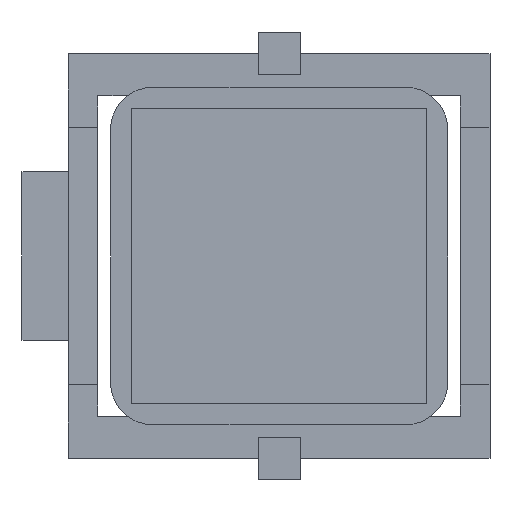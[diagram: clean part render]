
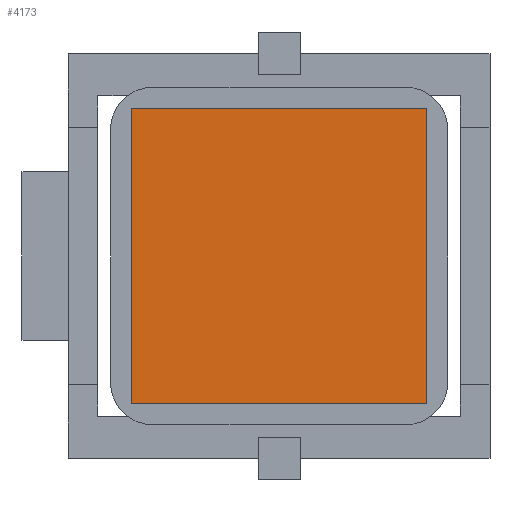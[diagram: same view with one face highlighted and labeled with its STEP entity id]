
A CAD part, front view. The second image highlights one B-rep face of the part: STEP entity #4173.
In plain terms, the highlighted planar face has unit normal (0, -1, 0).
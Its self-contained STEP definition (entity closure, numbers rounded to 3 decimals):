
#73 = ORIENTED_EDGE ( 'NONE', *, *, #4272, .F. ) ;
#271 = VERTEX_POINT ( 'NONE', #4070 ) ;
#322 = ORIENTED_EDGE ( 'NONE', *, *, #816, .F. ) ;
#385 = DIRECTION ( 'NONE',  ( 0., 0., -1. ) ) ;
#400 = VERTEX_POINT ( 'NONE', #2182 ) ;
#605 = CARTESIAN_POINT ( 'NONE',  ( -2.913, -13.936, 14.225 ) ) ;
#816 = EDGE_CURVE ( 'NONE', #2835, #271, #1651, .T. ) ;
#834 = VECTOR ( 'NONE', #3117, 1000. ) ;
#955 = ORIENTED_EDGE ( 'NONE', *, *, #2916, .F. ) ;
#986 = DIRECTION ( 'NONE',  ( 0., 1., 0. ) ) ;
#989 = CARTESIAN_POINT ( 'NONE',  ( -2.913, -13.936, 14.225 ) ) ;
#1233 = EDGE_LOOP ( 'NONE', ( #955, #2792, #73, #322 ) ) ;
#1444 = LINE ( 'NONE', #1778, #3556 ) ;
#1651 = LINE ( 'NONE', #605, #2432 ) ;
#1778 = CARTESIAN_POINT ( 'NONE',  ( 11.087, -13.936, 0.225 ) ) ;
#2031 = CARTESIAN_POINT ( 'NONE',  ( -2.913, -13.936, 0.225 ) ) ;
#2182 = CARTESIAN_POINT ( 'NONE',  ( 11.087, -13.936, 0.225 ) ) ;
#2248 = DIRECTION ( 'NONE',  ( 1., 0., 0. ) ) ;
#2331 = CARTESIAN_POINT ( 'NONE',  ( -2.913, -13.936, 0.225 ) ) ;
#2432 = VECTOR ( 'NONE', #2248, 1000. ) ;
#2792 = ORIENTED_EDGE ( 'NONE', *, *, #3834, .F. ) ;
#2835 = VERTEX_POINT ( 'NONE', #989 ) ;
#2852 = VERTEX_POINT ( 'NONE', #3406 ) ;
#2916 = EDGE_CURVE ( 'NONE', #2852, #2835, #4174, .T. ) ;
#3011 = LINE ( 'NONE', #2331, #3696 ) ;
#3041 = DIRECTION ( 'NONE',  ( -1., 0., 0. ) ) ;
#3117 = DIRECTION ( 'NONE',  ( 0., 0., 1. ) ) ;
#3268 = AXIS2_PLACEMENT_3D ( 'NONE', #2031, #986, #4168 ) ;
#3406 = CARTESIAN_POINT ( 'NONE',  ( -2.913, -13.936, 0.225 ) ) ;
#3556 = VECTOR ( 'NONE', #385, 1000. ) ;
#3696 = VECTOR ( 'NONE', #3041, 1000. ) ;
#3834 = EDGE_CURVE ( 'NONE', #400, #2852, #3011, .T. ) ;
#4058 = FACE_OUTER_BOUND ( 'NONE', #1233, .T. ) ;
#4070 = CARTESIAN_POINT ( 'NONE',  ( 11.087, -13.936, 14.225 ) ) ;
#4155 = CARTESIAN_POINT ( 'NONE',  ( -2.913, -13.936, 0.225 ) ) ;
#4168 = DIRECTION ( 'NONE',  ( 0., 0., 1. ) ) ;
#4173 = ADVANCED_FACE ( 'NONE', ( #4058 ), #4400, .F. ) ;
#4174 = LINE ( 'NONE', #4155, #834 ) ;
#4272 = EDGE_CURVE ( 'NONE', #271, #400, #1444, .T. ) ;
#4400 = PLANE ( 'NONE',  #3268 ) ;
